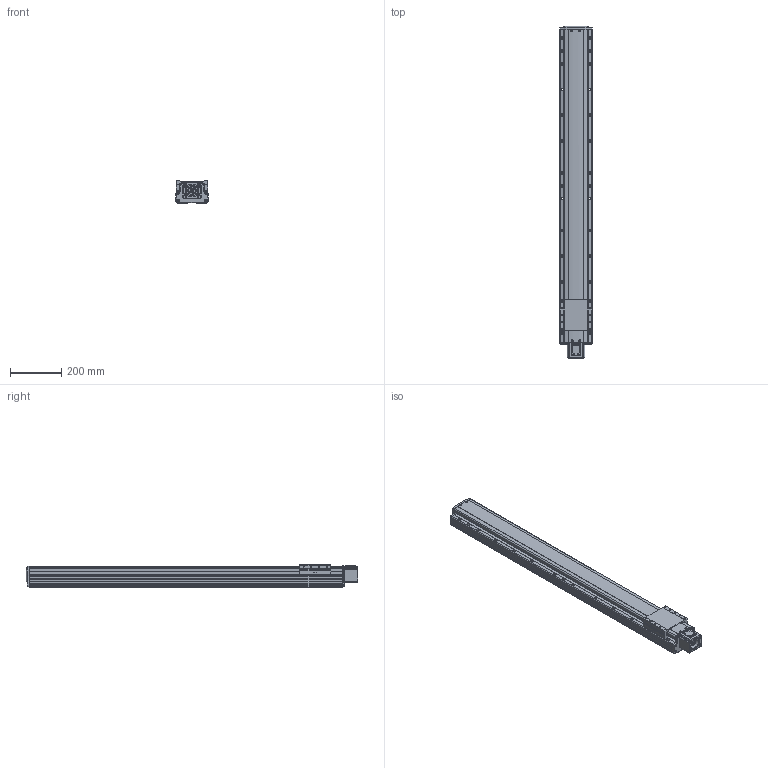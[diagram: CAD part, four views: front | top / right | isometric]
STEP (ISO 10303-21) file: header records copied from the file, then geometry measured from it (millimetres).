
FILE_DESCRIPTION(('STEP AP214'),'1');
FILE_NAME('Z:/Web/3D/PSA125/STP/PSA125-1000 (3D)/PSA125ㅁㅁ-1000S.stp','2014-06-23T05:09:48',(' '),(' '),'Spatial InterOp 3D',' ',' ');
FILE_SCHEMA(('automotive_design'));
Length unit declared in the file: millimetre
Products named in the file (35): 스크루 : Round - M4.0 x 10.0; RRCV-PA120; SLIDE; BASE; FRCV-PA120-1(기준 뿔 제거); RR1500; 스크루 : Round - M4.0 x 6.0; 너트 : Square - M10.0 x 220.7419; SSFX-SAN65; CPLCV-SAN65; 스크루 : Round - M3.0 x 6.0; MTHZ-PA120-S60A-3; 스크루 : Socket - M4.0 x 20.0; FRCV; NONE
Bounding box: 125 x 1294.6 x 86 mm (x, y, z)
Volume: 10494958.4 mm3; surface area: 860235 mm2
Topology: 35 solids, 69 shells, 3262 faces, 8378 edges, 5256 vertices
Faces by surface type: plane 1477, cylinder 1071, cone 449, torus 174, sphere 50, bspline 41
Entity records: 128668 total; most frequent: CARTESIAN_POINT 21366, DIRECTION 17556, ORIENTED_EDGE 16396, EDGE_CURVE 8198, AXIS2_PLACEMENT_3D 6370, VERTEX_POINT 5256, LINE 4816, VECTOR 4816
